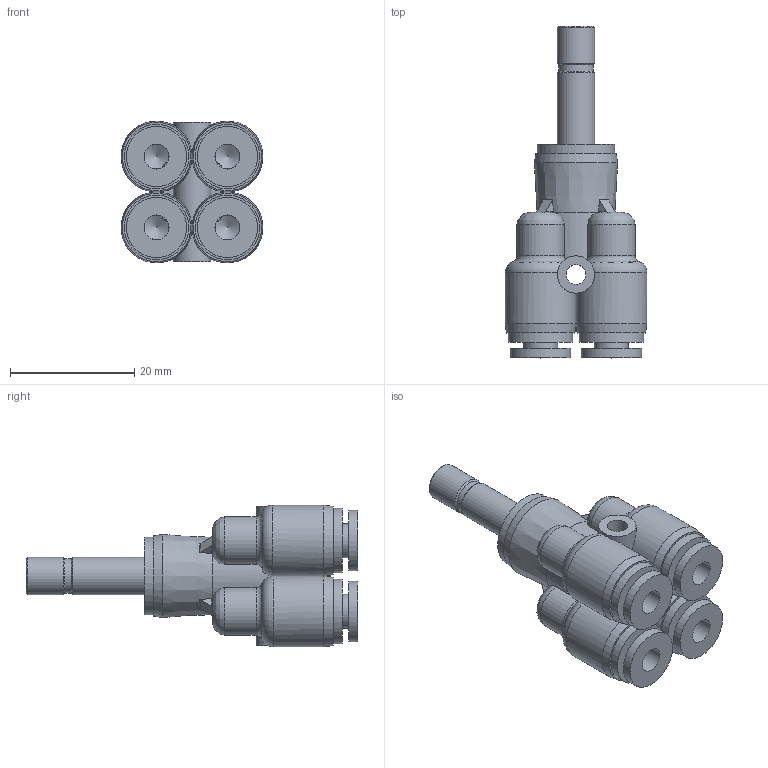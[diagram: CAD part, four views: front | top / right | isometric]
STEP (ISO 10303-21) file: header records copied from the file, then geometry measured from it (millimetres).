
FILE_DESCRIPTION(/* description */ (''),/* implementation_level */ '2;1');
FILE_NAME(/* name */ 'S:\_Tecnico\ArchivioUT\_Disegni3D ingombri\DISEGNI 3D per ingombri\RP\RP 76\RP760604.stp',/* time_stamp */ '2019-09-12T14:23:03+02:00',/* author */ ('ufficiotecnico3'),/* organization */ (''),/* preprocessor_version */ 'ST-DEVELOPER v18',/* originating_system */ 'Autodesk Inventor 2020',/* authorisation */ '');
FILE_SCHEMA (('AUTOMOTIVE_DESIGN { 1 0 10303 214 3 1 1 }'));
Length unit declared in the file: millimetre
Products named in the file (1): RP760604
Bounding box: 22.8 x 53.4 x 22.8 mm (x, y, z)
Volume: 8285 mm3; surface area: 6357.8 mm2
Topology: 1 solids, 1 shells, 141 faces, 414 edges, 278 vertices
Faces by surface type: cylinder 61, plane 41, bspline 16, cone 15, torus 8
Full cylindrical faces by diameter (mm): 3 x4, 3.2 x1, 3.5 x2, 4 x4, 5.5 x5, 6 x4, 9.7 x4, 10.4 x4, 12.5 x1
Entity records: 6271 total; most frequent: CARTESIAN_POINT 2572, ORIENTED_EDGE 820, DIRECTION 724, EDGE_CURVE 410, AXIS2_PLACEMENT_3D 306, VERTEX_POINT 278, EDGE_LOOP 162, CIRCLE 157
